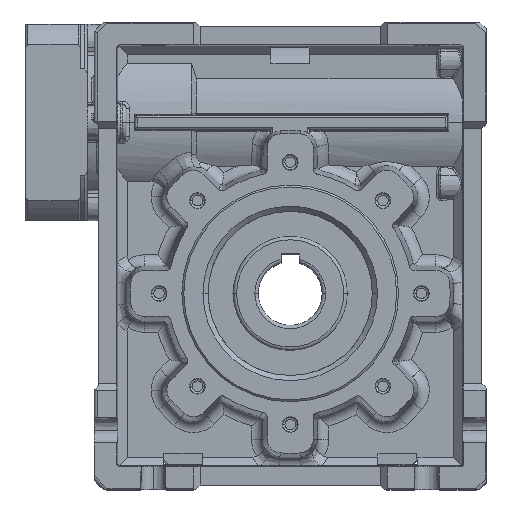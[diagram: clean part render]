
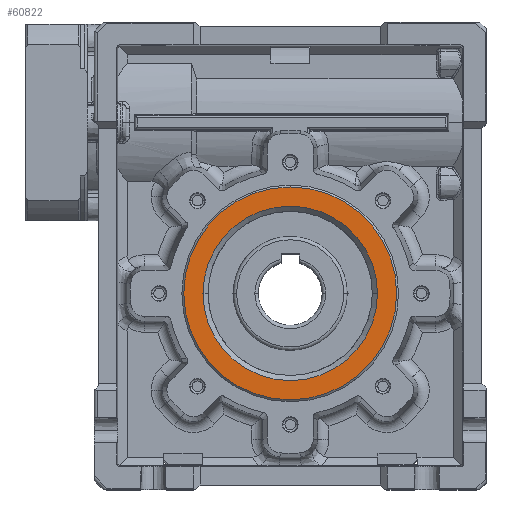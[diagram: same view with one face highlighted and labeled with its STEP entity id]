
A CAD part, top view. The second image highlights one B-rep face of the part: STEP entity #60822.
In plain terms, the highlighted planar face has unit normal (0, 0, 1).
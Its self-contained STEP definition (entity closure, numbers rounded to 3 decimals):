
#4279 = DIRECTION ( 'NONE',  ( 1., 0., 0. ) ) ;
#6765 = EDGE_LOOP ( 'NONE', ( #44804, #23050 ) ) ;
#13437 = CIRCLE ( 'NONE', #85663, 46.668 ) ;
#17070 = ORIENTED_EDGE ( 'NONE', *, *, #104987, .T. ) ;
#21028 = CARTESIAN_POINT ( 'NONE',  ( 46.668, 0., 60. ) ) ;
#22287 = CIRCLE ( 'NONE', #68887, 38.25 ) ;
#23050 = ORIENTED_EDGE ( 'NONE', *, *, #77329, .T. ) ;
#29797 = DIRECTION ( 'NONE',  ( 1., 0., 0. ) ) ;
#33995 = DIRECTION ( 'NONE',  ( 1., 0., 0. ) ) ;
#36371 = PLANE ( 'NONE',  #129323 ) ;
#41964 = EDGE_CURVE ( 'NONE', #52844, #111884, #85449, .T. ) ;
#44309 = CIRCLE ( 'NONE', #107020, 46.668 ) ;
#44804 = ORIENTED_EDGE ( 'NONE', *, *, #83745, .T. ) ;
#47658 = VERTEX_POINT ( 'NONE', #65810 ) ;
#52844 = VERTEX_POINT ( 'NONE', #121171 ) ;
#53143 = CARTESIAN_POINT ( 'NONE',  ( 0., 0., 60. ) ) ;
#55126 = DIRECTION ( 'NONE',  ( 0., 0., 1. ) ) ;
#57517 = CARTESIAN_POINT ( 'NONE',  ( 0., 0., 60. ) ) ;
#60822 = ADVANCED_FACE ( 'NONE', ( #101282, #68442 ), #36371, .T. ) ;
#65810 = CARTESIAN_POINT ( 'NONE',  ( -46.668, 0., 60. ) ) ;
#68040 = ORIENTED_EDGE ( 'NONE', *, *, #41964, .T. ) ;
#68442 = FACE_OUTER_BOUND ( 'NONE', #6765, .T. ) ;
#68887 = AXIS2_PLACEMENT_3D ( 'NONE', #100088, #112473, #110310 ) ;
#77329 = EDGE_CURVE ( 'NONE', #116741, #47658, #13437, .T. ) ;
#80092 = DIRECTION ( 'NONE',  ( 1., 0., 0. ) ) ;
#80824 = DIRECTION ( 'NONE',  ( 0., 0., 1. ) ) ;
#83745 = EDGE_CURVE ( 'NONE', #47658, #116741, #44309, .T. ) ;
#85449 = CIRCLE ( 'NONE', #92428, 38.25 ) ;
#85663 = AXIS2_PLACEMENT_3D ( 'NONE', #87941, #55126, #33995 ) ;
#87941 = CARTESIAN_POINT ( 'NONE',  ( 0., 0., 60. ) ) ;
#88882 = CARTESIAN_POINT ( 'NONE',  ( 0., 0., 60. ) ) ;
#92428 = AXIS2_PLACEMENT_3D ( 'NONE', #53143, #141955, #29797 ) ;
#97003 = EDGE_LOOP ( 'NONE', ( #68040, #17070 ) ) ;
#100088 = CARTESIAN_POINT ( 'NONE',  ( 0., 0., 60. ) ) ;
#101282 = FACE_BOUND ( 'NONE', #97003, .T. ) ;
#104987 = EDGE_CURVE ( 'NONE', #111884, #52844, #22287, .T. ) ;
#107020 = AXIS2_PLACEMENT_3D ( 'NONE', #88882, #112179, #80092 ) ;
#110310 = DIRECTION ( 'NONE',  ( 1., 0., 0. ) ) ;
#111884 = VERTEX_POINT ( 'NONE', #133445 ) ;
#112179 = DIRECTION ( 'NONE',  ( 0., 0., 1. ) ) ;
#112473 = DIRECTION ( 'NONE',  ( 0., 0., -1. ) ) ;
#116741 = VERTEX_POINT ( 'NONE', #21028 ) ;
#121171 = CARTESIAN_POINT ( 'NONE',  ( 38.25, 0., 60. ) ) ;
#129323 = AXIS2_PLACEMENT_3D ( 'NONE', #57517, #80824, #4279 ) ;
#133445 = CARTESIAN_POINT ( 'NONE',  ( -38.25, 0., 60. ) ) ;
#141955 = DIRECTION ( 'NONE',  ( 0., 0., -1. ) ) ;
